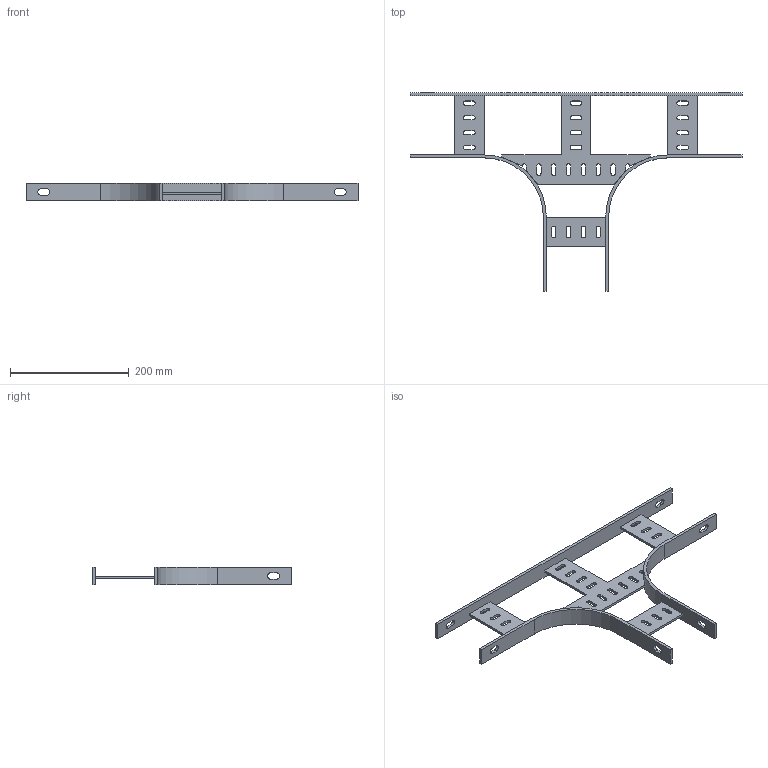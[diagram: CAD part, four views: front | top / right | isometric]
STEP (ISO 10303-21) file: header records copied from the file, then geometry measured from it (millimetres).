
FILE_DESCRIPTION(('Creo Elements/Direct Modeling STEP Export'),'2;1');
FILE_NAME('//pserver/office/EK/ME10-3D/3D-output/SLA 100F.stp','2020-03-10T15:10:28',(''),(''),'PTC Creo Elements/Direct Modeling STEP processor for AP214 (Solid Model)','PTC Creo Elements/Direct Modeling 19.0C 15-Aug-2015 (C) Parametric Technology GmbH','');
FILE_SCHEMA(('AUTOMOTIVE_DESIGN { 1 0 10303 214 1 1 1 1 }'));
Length unit declared in the file: millimetre
Products named in the file (2): SLA_100F
Assembly tree (1 placements, depth 2):
  SLA_100F
    SLA_100F
Bounding box: 560 x 335 x 30 mm (x, y, z)
Volume: 305633.8 mm3; surface area: 157026 mm2
Topology: 1 solids, 1 shells, 169 faces, 490 edges, 324 vertices
Faces by surface type: plane 107, cylinder 62
Entity records: 5696 total; most frequent: ORIENTED_EDGE 980, CARTESIAN_POINT 978, DIRECTION 948, EDGE_CURVE 490, VECTOR 360, LINE 360, VERTEX_POINT 324, AXIS2_PLACEMENT_3D 294
